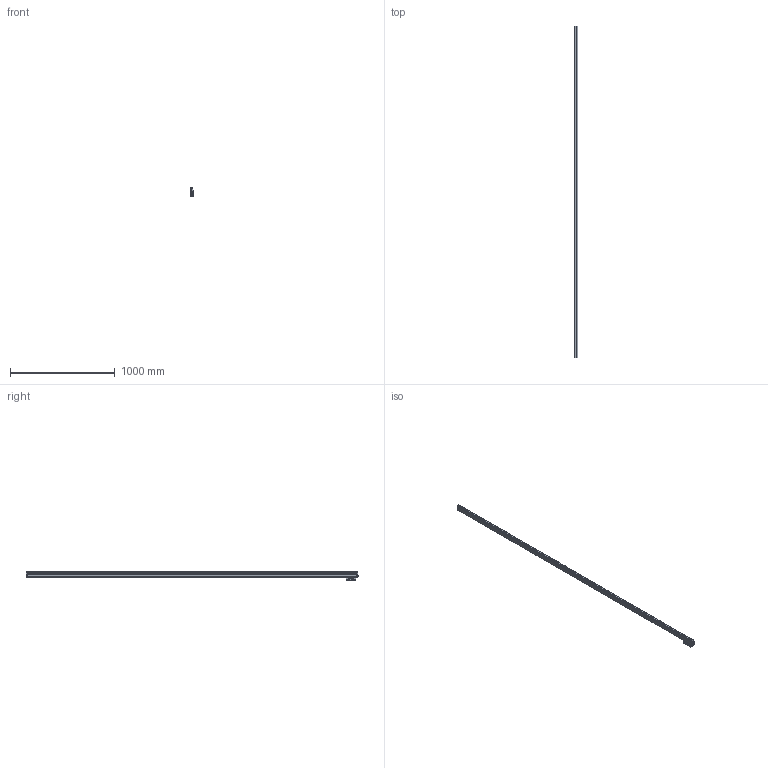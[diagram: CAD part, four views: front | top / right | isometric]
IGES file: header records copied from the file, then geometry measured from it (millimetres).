
Start section: Elysium IGES Interface
Global section: file name: 82HK:\20_商品設計\設計１課\個人\宮澤\郷間さん\AT1123\3D\NEW_ﾌｧｲﾙ\IGES\AT1123-3040.igs; native system: Creo Elements/Direct Modeling 18.1B  29-Sep-2012; preprocessor: Creo Element/Direct IGES_3D V2.2; author: Unknown; organization: Unknown; date: 20181012.094902; units: millimetre
Bounding box: 37 x 3168.31 x 85 mm (x, y, z)
Volume: 4912772.7 mm3; surface area: 695227.3 mm2
Topology: 2 solids, 2 shells, 3924 faces, 10661 edges, 6931 vertices
Faces by surface type: bspline 3924
